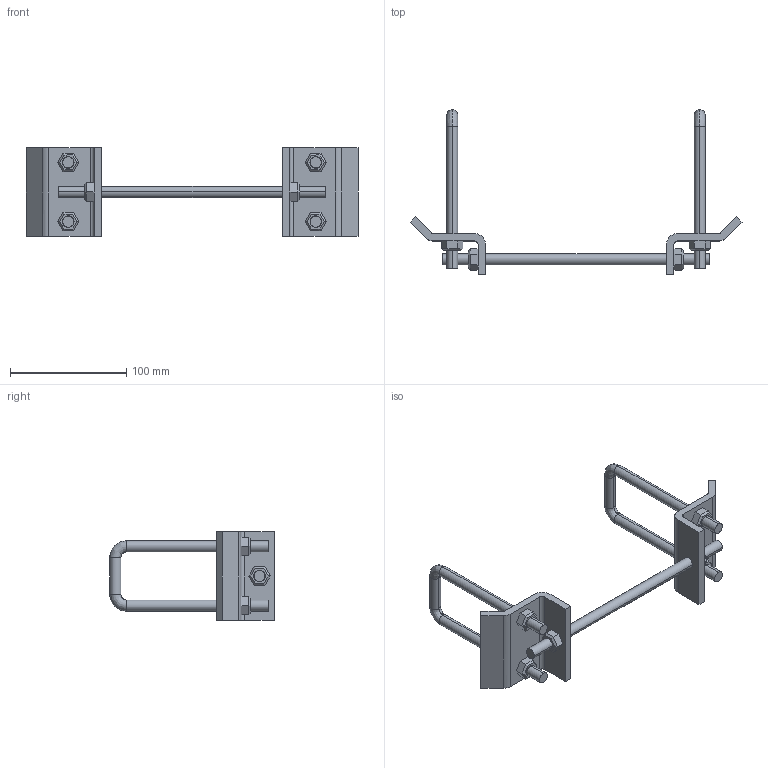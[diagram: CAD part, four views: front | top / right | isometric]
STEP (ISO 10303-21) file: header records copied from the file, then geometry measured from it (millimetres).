
FILE_DESCRIPTION(('TurboCAD Mac Pro'),'Build 980');
FILE_NAME('P2868A-9.stp',' ',(''),(''),'ACIS Interop','IMSI','TurboCAD Mac Pro BY IMSI, INCORPORATED');
FILE_SCHEMA(('automotive_design'));
Length unit declared in the file: inch
Products named in the file (11): 1; 2; 3; 4; 5; 6; 7; 8; 9; 10; 11
Bounding box: 285.2 x 141.31 x 76.2 mm (x, y, z)
Volume: 155317.1 mm3; surface area: 64669.1 mm2
Topology: 11 solids, 11 shells, 176 faces, 410 edges, 256 vertices
Faces by surface type: plane 110, bspline 40, cylinder 26
Entity records: 9060 total; most frequent: CARTESIAN_POINT 1837, ORIENTED_EDGE 820, DIRECTION 692, STYLED_ITEM 533, PRESENTATION_STYLE_ASSIGNMENT 533, COLOUR_RGB 533, EDGE_CURVE 410, CURVE_STYLE 346
